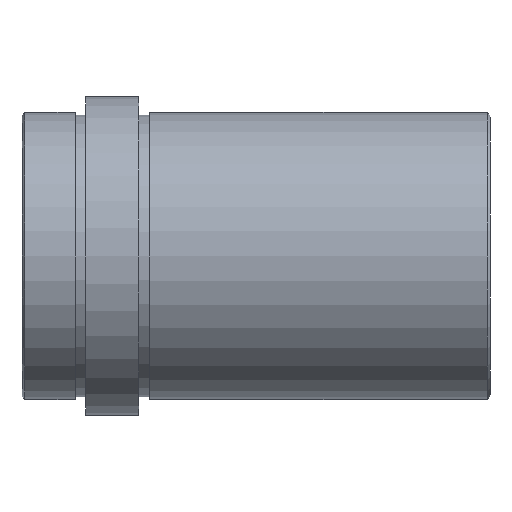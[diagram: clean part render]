
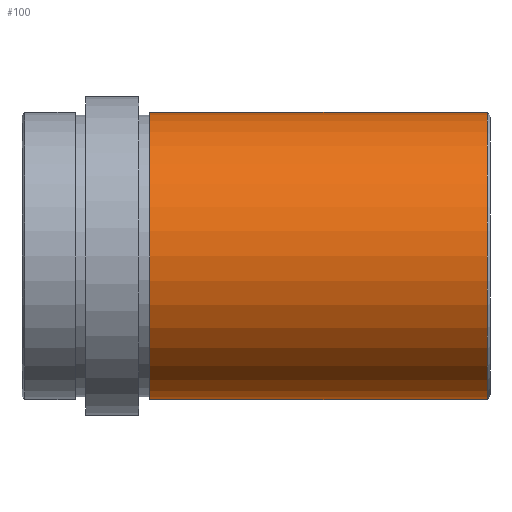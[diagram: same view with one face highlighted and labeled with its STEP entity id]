
A CAD part, front view. The second image highlights one B-rep face of the part: STEP entity #100.
In plain terms, the highlighted face is a revolution surface.
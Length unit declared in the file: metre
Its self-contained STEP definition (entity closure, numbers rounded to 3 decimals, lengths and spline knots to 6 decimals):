
#100 = ADVANCED_FACE( '', ( #157 ), #158, .F. );
#157 = FACE_OUTER_BOUND( '', #250, .T. );
#158 = SURFACE_OF_REVOLUTION( '', #251, #252 );
#250 = EDGE_LOOP( '', ( #419, #420, #421, #422 ) );
#251 = B_SPLINE_CURVE_WITH_KNOTS( '', 1, ( #423, #424 ), .UNSPECIFIED., .F., .F., ( 2, 2 ), ( -10000., 10000. ), .UNSPECIFIED. );
#252 = AXIS1_PLACEMENT( '', #425, #426 );
#419 = ORIENTED_EDGE( '', *, *, #492, .T. );
#420 = ORIENTED_EDGE( '', *, *, #490, .T. );
#421 = ORIENTED_EDGE( '', *, *, #445, .F. );
#422 = ORIENTED_EDGE( '', *, *, #489, .T. );
#423 = CARTESIAN_POINT( '', ( 10000.0875, 0., 0.027 ) );
#424 = CARTESIAN_POINT( '', ( -9999.9125, 0., 0.027 ) );
#425 = CARTESIAN_POINT( '', ( 0., 0., 0. ) );
#426 = DIRECTION( '', ( 1., 0., 0. ) );
#445 = EDGE_CURVE( '', #499, #500, #501, .T. );
#489 = EDGE_CURVE( '', #499, #571, #572, .F. );
#490 = EDGE_CURVE( '', #573, #500, #574, .T. );
#492 = EDGE_CURVE( '', #571, #573, #576, .T. );
#499 = VERTEX_POINT( '', #583 );
#500 = VERTEX_POINT( '', #584 );
#501 = CIRCLE( '', #585, 0.027 );
#571 = VERTEX_POINT( '', #671 );
#572 = LINE( '', #672, #673 );
#573 = VERTEX_POINT( '', #674 );
#574 = LINE( '', #675, #676 );
#576 = CIRCLE( '', #678, 0.027 );
#583 = CARTESIAN_POINT( '', ( 0.024, 0., -0.027 ) );
#584 = CARTESIAN_POINT( '', ( 0.024, 0., 0.027 ) );
#585 = AXIS2_PLACEMENT_3D( '', #689, #690, #691 );
#671 = CARTESIAN_POINT( '', ( 0.0875, 0., -0.027 ) );
#672 = CARTESIAN_POINT( '', ( 0.0875, 0., -0.027 ) );
#673 = VECTOR( '', #789, 1. );
#674 = CARTESIAN_POINT( '', ( 0.0875, 0., 0.027 ) );
#675 = CARTESIAN_POINT( '', ( 0.0875, 0., 0.027 ) );
#676 = VECTOR( '', #790, 1. );
#678 = AXIS2_PLACEMENT_3D( '', #794, #795, #796 );
#689 = CARTESIAN_POINT( '', ( 0.024, 0., 0. ) );
#690 = DIRECTION( '', ( -1., 0., 0. ) );
#691 = DIRECTION( '', ( 0., 0., 1. ) );
#789 = DIRECTION( '', ( -1., 0., 0. ) );
#790 = DIRECTION( '', ( -1., 0., 0. ) );
#794 = CARTESIAN_POINT( '', ( 0.0875, 0., 0. ) );
#795 = DIRECTION( '', ( -1., 0., 0. ) );
#796 = DIRECTION( '', ( 0., 0., 1. ) );
